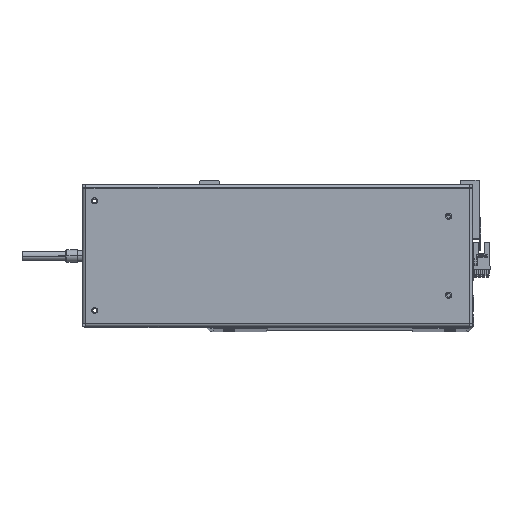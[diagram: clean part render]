
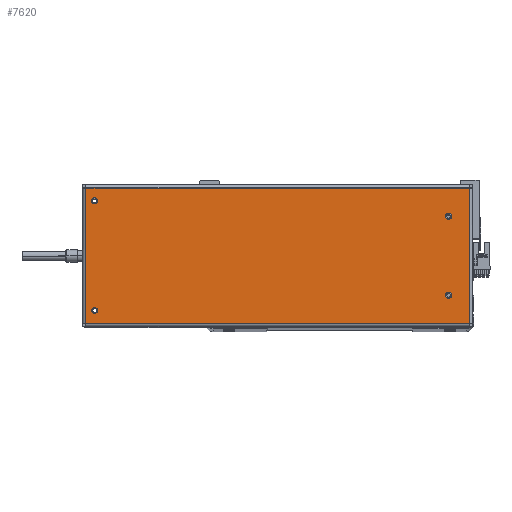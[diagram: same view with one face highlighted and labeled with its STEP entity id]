
A CAD part, top view. The second image highlights one B-rep face of the part: STEP entity #7620.
In plain terms, the highlighted planar face has unit normal (0, 0, 1).
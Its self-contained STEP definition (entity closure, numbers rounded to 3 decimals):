
#631 = CARTESIAN_POINT ( 'NONE',  ( -140.5, -32.5, 0. ) ) ;
#656 = VECTOR ( 'NONE', #31322, 1000. ) ;
#672 = VECTOR ( 'NONE', #25453, 1000. ) ;
#1708 = VERTEX_POINT ( 'NONE', #18381 ) ;
#1904 = VERTEX_POINT ( 'NONE', #6340 ) ;
#1915 = EDGE_CURVE ( 'NONE', #4973, #29928, #29613, .T. ) ;
#3216 = EDGE_CURVE ( 'NONE', #1708, #9424, #8658, .T. ) ;
#3431 = CARTESIAN_POINT ( 'NONE',  ( -157.7, -55.6, 0. ) ) ;
#3710 = AXIS2_PLACEMENT_3D ( 'NONE', #631, #19536, #22416 ) ;
#3922 = CARTESIAN_POINT ( 'NONE',  ( 150.5, 45., 0. ) ) ;
#4134 = DIRECTION ( 'NONE',  ( -1., 0., 0. ) ) ;
#4300 = CARTESIAN_POINT ( 'NONE',  ( -157.6, 55.6, 0. ) ) ;
#4375 = FACE_BOUND ( 'NONE', #17283, .T. ) ;
#4610 = CARTESIAN_POINT ( 'NONE',  ( 150.5, 45., 0. ) ) ;
#4615 = VERTEX_POINT ( 'NONE', #12408 ) ;
#4670 = AXIS2_PLACEMENT_3D ( 'NONE', #3922, #9927, #7200 ) ;
#4805 = CARTESIAN_POINT ( 'NONE',  ( -157.6, -55.6, 0. ) ) ;
#4936 = ORIENTED_EDGE ( 'NONE', *, *, #1915, .F. ) ;
#4973 = VERTEX_POINT ( 'NONE', #40104 ) ;
#5461 = CIRCLE ( 'NONE', #8106, 2.5 ) ;
#5882 = CIRCLE ( 'NONE', #31517, 2.5 ) ;
#6340 = CARTESIAN_POINT ( 'NONE',  ( -138., -32.5, 0. ) ) ;
#6759 = DIRECTION ( 'NONE',  ( 1., 0., 0. ) ) ;
#7200 = DIRECTION ( 'NONE',  ( 1., 0., 0. ) ) ;
#7275 = CARTESIAN_POINT ( 'NONE',  ( 157.6, 55.6, 0. ) ) ;
#7469 = EDGE_LOOP ( 'NONE', ( #10768, #27524, #27054, #32843 ) ) ;
#7620 = ADVANCED_FACE ( 'NONE', ( #32215, #23452, #4375, #24902, #31767 ), #12080, .F. ) ;
#8106 = AXIS2_PLACEMENT_3D ( 'NONE', #35079, #28408, #34804 ) ;
#8658 = CIRCLE ( 'NONE', #30201, 2.5 ) ;
#9410 = CARTESIAN_POINT ( 'NONE',  ( 148., -45., 0. ) ) ;
#9424 = VERTEX_POINT ( 'NONE', #12652 ) ;
#9434 = EDGE_CURVE ( 'NONE', #19130, #37829, #16647, .T. ) ;
#9836 = VERTEX_POINT ( 'NONE', #25220 ) ;
#9889 = LINE ( 'NONE', #37466, #656 ) ;
#9927 = DIRECTION ( 'NONE',  ( 0., 0., 1. ) ) ;
#10051 = CARTESIAN_POINT ( 'NONE',  ( 148., 45., 0. ) ) ;
#10297 = LINE ( 'NONE', #25212, #26880 ) ;
#10768 = ORIENTED_EDGE ( 'NONE', *, *, #13186, .T. ) ;
#11256 = ORIENTED_EDGE ( 'NONE', *, *, #20634, .F. ) ;
#11629 = CIRCLE ( 'NONE', #3710, 2.5 ) ;
#12080 = PLANE ( 'NONE',  #21866 ) ;
#12408 = CARTESIAN_POINT ( 'NONE',  ( -143., -32.5, 0. ) ) ;
#12652 = CARTESIAN_POINT ( 'NONE',  ( -143., 32.5, 0. ) ) ;
#12798 = VERTEX_POINT ( 'NONE', #4300 ) ;
#13181 = VECTOR ( 'NONE', #28399, 1000. ) ;
#13186 = EDGE_CURVE ( 'NONE', #12798, #19130, #9889, .T. ) ;
#13395 = DIRECTION ( 'NONE',  ( 0., 0., 1. ) ) ;
#14667 = DIRECTION ( 'NONE',  ( 1., 0., 0. ) ) ;
#15022 = EDGE_LOOP ( 'NONE', ( #20187, #38318 ) ) ;
#15966 = ORIENTED_EDGE ( 'NONE', *, *, #36185, .F. ) ;
#16160 = CIRCLE ( 'NONE', #19329, 2.5 ) ;
#16427 = DIRECTION ( 'NONE',  ( 0., 0., 1. ) ) ;
#16647 = LINE ( 'NONE', #3431, #13181 ) ;
#17283 = EDGE_LOOP ( 'NONE', ( #4936, #19082 ) ) ;
#17443 = CARTESIAN_POINT ( 'NONE',  ( 150.5, -45., 0. ) ) ;
#17988 = DIRECTION ( 'NONE',  ( 0., 0., 1. ) ) ;
#18381 = CARTESIAN_POINT ( 'NONE',  ( -138., 32.5, 0. ) ) ;
#18618 = AXIS2_PLACEMENT_3D ( 'NONE', #4610, #38347, #26058 ) ;
#19082 = ORIENTED_EDGE ( 'NONE', *, *, #24675, .F. ) ;
#19130 = VERTEX_POINT ( 'NONE', #4805 ) ;
#19329 = AXIS2_PLACEMENT_3D ( 'NONE', #27400, #17988, #14667 ) ;
#19536 = DIRECTION ( 'NONE',  ( 0., 0., 1. ) ) ;
#19707 = CARTESIAN_POINT ( 'NONE',  ( -140.5, 32.5, 0. ) ) ;
#20187 = ORIENTED_EDGE ( 'NONE', *, *, #36391, .F. ) ;
#20423 = EDGE_CURVE ( 'NONE', #37829, #25086, #27960, .T. ) ;
#20634 = EDGE_CURVE ( 'NONE', #1904, #4615, #5461, .T. ) ;
#21432 = EDGE_LOOP ( 'NONE', ( #11256, #26107 ) ) ;
#21866 = AXIS2_PLACEMENT_3D ( 'NONE', #27944, #37072, #24525 ) ;
#22416 = DIRECTION ( 'NONE',  ( 1., 0., 0. ) ) ;
#22484 = CIRCLE ( 'NONE', #4670, 2.5 ) ;
#22980 = DIRECTION ( 'NONE',  ( 0., 0., 1. ) ) ;
#22992 = DIRECTION ( 'NONE',  ( 1., 0., 0. ) ) ;
#23297 = CARTESIAN_POINT ( 'NONE',  ( 157.6, -55.6, 0. ) ) ;
#23452 = FACE_BOUND ( 'NONE', #23609, .T. ) ;
#23609 = EDGE_LOOP ( 'NONE', ( #25185, #15966 ) ) ;
#24525 = DIRECTION ( 'NONE',  ( -1., 0., 0. ) ) ;
#24675 = EDGE_CURVE ( 'NONE', #29928, #4973, #5882, .T. ) ;
#24902 = FACE_BOUND ( 'NONE', #15022, .T. ) ;
#25086 = VERTEX_POINT ( 'NONE', #7275 ) ;
#25185 = ORIENTED_EDGE ( 'NONE', *, *, #3216, .F. ) ;
#25212 = CARTESIAN_POINT ( 'NONE',  ( 157.7, 55.6, 0. ) ) ;
#25220 = CARTESIAN_POINT ( 'NONE',  ( 153., 45., 0. ) ) ;
#25453 = DIRECTION ( 'NONE',  ( 0., 1., 0. ) ) ;
#25729 = CARTESIAN_POINT ( 'NONE',  ( 150.5, -45., 0. ) ) ;
#26058 = DIRECTION ( 'NONE',  ( 1., 0., 0. ) ) ;
#26107 = ORIENTED_EDGE ( 'NONE', *, *, #31123, .F. ) ;
#26880 = VECTOR ( 'NONE', #4134, 1000. ) ;
#27054 = ORIENTED_EDGE ( 'NONE', *, *, #20423, .T. ) ;
#27400 = CARTESIAN_POINT ( 'NONE',  ( -140.5, 32.5, 0. ) ) ;
#27524 = ORIENTED_EDGE ( 'NONE', *, *, #9434, .T. ) ;
#27944 = CARTESIAN_POINT ( 'NONE',  ( 157.7, 58.5, 0. ) ) ;
#27960 = LINE ( 'NONE', #40059, #672 ) ;
#28399 = DIRECTION ( 'NONE',  ( 1., 0., 0. ) ) ;
#28408 = DIRECTION ( 'NONE',  ( 0., 0., 1. ) ) ;
#29613 = CIRCLE ( 'NONE', #31237, 2.5 ) ;
#29928 = VERTEX_POINT ( 'NONE', #9410 ) ;
#30201 = AXIS2_PLACEMENT_3D ( 'NONE', #19707, #22980, #6759 ) ;
#31123 = EDGE_CURVE ( 'NONE', #4615, #1904, #11629, .T. ) ;
#31237 = AXIS2_PLACEMENT_3D ( 'NONE', #25729, #13395, #35271 ) ;
#31322 = DIRECTION ( 'NONE',  ( 0., -1., 0. ) ) ;
#31517 = AXIS2_PLACEMENT_3D ( 'NONE', #17443, #16427, #22992 ) ;
#31767 = FACE_OUTER_BOUND ( 'NONE', #7469, .T. ) ;
#32215 = FACE_BOUND ( 'NONE', #21432, .T. ) ;
#32843 = ORIENTED_EDGE ( 'NONE', *, *, #36009, .T. ) ;
#34804 = DIRECTION ( 'NONE',  ( 1., 0., 0. ) ) ;
#35079 = CARTESIAN_POINT ( 'NONE',  ( -140.5, -32.5, 0. ) ) ;
#35271 = DIRECTION ( 'NONE',  ( 1., 0., 0. ) ) ;
#36009 = EDGE_CURVE ( 'NONE', #25086, #12798, #10297, .T. ) ;
#36185 = EDGE_CURVE ( 'NONE', #9424, #1708, #16160, .T. ) ;
#36391 = EDGE_CURVE ( 'NONE', #9836, #40025, #22484, .T. ) ;
#37072 = DIRECTION ( 'NONE',  ( 0., 0., -1. ) ) ;
#37466 = CARTESIAN_POINT ( 'NONE',  ( -157.6, 55.6, 0. ) ) ;
#37829 = VERTEX_POINT ( 'NONE', #23297 ) ;
#38318 = ORIENTED_EDGE ( 'NONE', *, *, #39510, .F. ) ;
#38347 = DIRECTION ( 'NONE',  ( 0., 0., 1. ) ) ;
#39510 = EDGE_CURVE ( 'NONE', #40025, #9836, #39784, .T. ) ;
#39784 = CIRCLE ( 'NONE', #18618, 2.5 ) ;
#40025 = VERTEX_POINT ( 'NONE', #10051 ) ;
#40059 = CARTESIAN_POINT ( 'NONE',  ( 157.6, -55.6, 0. ) ) ;
#40104 = CARTESIAN_POINT ( 'NONE',  ( 153., -45., 0. ) ) ;
